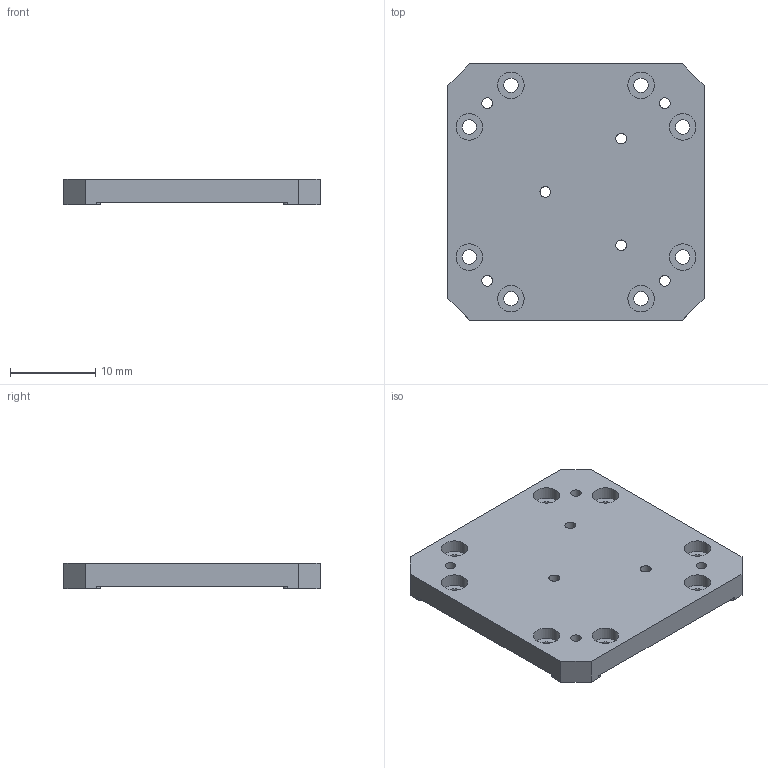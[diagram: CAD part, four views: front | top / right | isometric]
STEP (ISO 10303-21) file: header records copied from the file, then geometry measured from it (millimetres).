
FILE_DESCRIPTION(/* description */ (''),/* implementation_level */ '2;1');
FILE_NAME(/* name */ 'P182023B_STP-001.stp',/* time_stamp */ '2021-02-03T15:42:12+01:00',/* author */ (''),/* organization */ ('JPE'),/* preprocessor_version */ 'ST-DEVELOPER v18.1',/* originating_system */ 'SIEMENS PLM Software NX 1957',/* authorisation */ '');
FILE_SCHEMA (('AUTOMOTIVE_DESIGN { 1 0 10303 214 3 1 1 1 }'));
Length unit declared in the file: millimetre
Products named in the file (2): P182023B; P182023B_110-001a
Assembly tree (1 placements, depth 2):
  P182023B_110-001a
    P182023B
Bounding box: 30 x 30 x 3 mm (x, y, z)
Volume: 2271.2 mm3; surface area: 2287.8 mm2
Topology: 1 solids, 1 shells, 57 faces, 156 edges, 109 vertices
Faces by surface type: cylinder 31, plane 26
Full cylindrical faces by diameter (mm): 1.25 x7, 1.7 x8, 3.1 x8
Entity records: 1704 total; most frequent: DIRECTION 298, CARTESIAN_POINT 271, ORIENTED_EDGE 236, AXIS2_PLACEMENT_3D 121, EDGE_LOOP 118, EDGE_CURVE 118, FACE_BOUND 94, VERTEX_POINT 94
